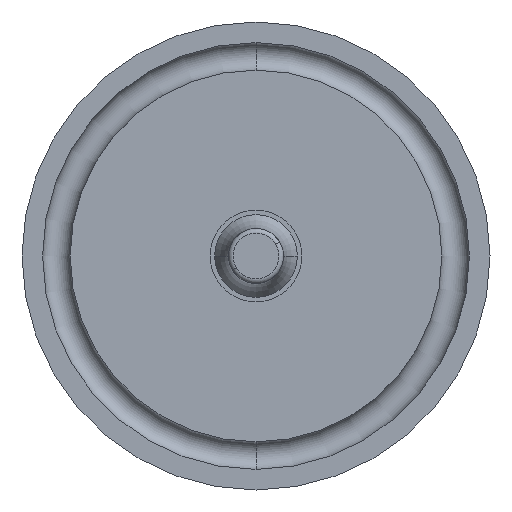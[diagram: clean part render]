
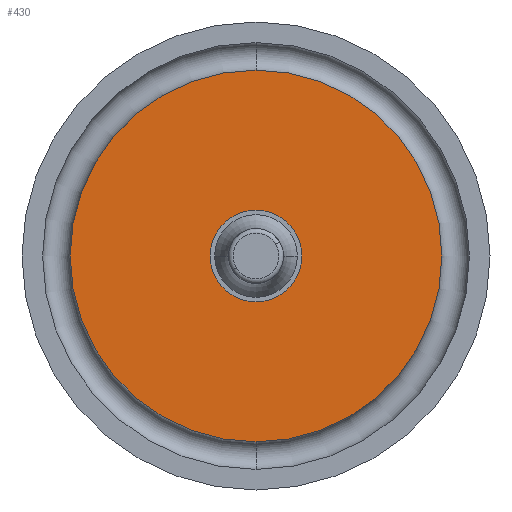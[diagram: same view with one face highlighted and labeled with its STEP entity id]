
A CAD part, front view. The second image highlights one B-rep face of the part: STEP entity #430.
In plain terms, the highlighted planar face has unit normal (0, -1, 0).
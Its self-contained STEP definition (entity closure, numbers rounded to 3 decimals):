
#196 = DIRECTION ( 'NONE',  ( 0., 1., 0. ) ) ;
#299 = CIRCLE ( 'NONE', #2300, 5. ) ;
#355 = CIRCLE ( 'NONE', #2046, 20.25 ) ;
#430 = ADVANCED_FACE ( 'NONE', ( #4752, #5232 ), #1711, .F. ) ;
#489 = CARTESIAN_POINT ( 'NONE',  ( 0., 0., 5. ) ) ;
#551 = DIRECTION ( 'NONE',  ( 0., 1., 0. ) ) ;
#586 = DIRECTION ( 'NONE',  ( 0., 1., 0. ) ) ;
#715 = DIRECTION ( 'NONE',  ( 0., 1., 0. ) ) ;
#744 = ORIENTED_EDGE ( 'NONE', *, *, #3479, .T. ) ;
#887 = AXIS2_PLACEMENT_3D ( 'NONE', #3053, #5051, #2869 ) ;
#987 = VERTEX_POINT ( 'NONE', #4087 ) ;
#1362 = AXIS2_PLACEMENT_3D ( 'NONE', #4450, #551, #4418 ) ;
#1410 = CARTESIAN_POINT ( 'NONE',  ( 0., 0., 0. ) ) ;
#1449 = EDGE_CURVE ( 'NONE', #987, #4096, #355, .T. ) ;
#1492 = CARTESIAN_POINT ( 'NONE',  ( 0., 0., -5. ) ) ;
#1616 = VERTEX_POINT ( 'NONE', #489 ) ;
#1711 = PLANE ( 'NONE',  #887 ) ;
#2046 = AXIS2_PLACEMENT_3D ( 'NONE', #2846, #196, #3211 ) ;
#2077 = CARTESIAN_POINT ( 'NONE',  ( 0., 0., 0. ) ) ;
#2300 = AXIS2_PLACEMENT_3D ( 'NONE', #1410, #586, #4073 ) ;
#2302 = EDGE_CURVE ( 'NONE', #5233, #1616, #5253, .T. ) ;
#2457 = CARTESIAN_POINT ( 'NONE',  ( 0., 0., -20.25 ) ) ;
#2677 = ORIENTED_EDGE ( 'NONE', *, *, #2907, .F. ) ;
#2846 = CARTESIAN_POINT ( 'NONE',  ( 0., 0., 0. ) ) ;
#2869 = DIRECTION ( 'NONE',  ( 0., 0., 1. ) ) ;
#2907 = EDGE_CURVE ( 'NONE', #4096, #987, #3097, .T. ) ;
#3053 = CARTESIAN_POINT ( 'NONE',  ( 5., 0., 0. ) ) ;
#3097 = CIRCLE ( 'NONE', #1362, 20.25 ) ;
#3211 = DIRECTION ( 'NONE',  ( 0., 0., 1. ) ) ;
#3479 = EDGE_CURVE ( 'NONE', #1616, #5233, #299, .T. ) ;
#3709 = AXIS2_PLACEMENT_3D ( 'NONE', #2077, #715, #4253 ) ;
#4073 = DIRECTION ( 'NONE',  ( 0., 0., 1. ) ) ;
#4087 = CARTESIAN_POINT ( 'NONE',  ( 0., 0., 20.25 ) ) ;
#4096 = VERTEX_POINT ( 'NONE', #2457 ) ;
#4230 = ORIENTED_EDGE ( 'NONE', *, *, #1449, .F. ) ;
#4253 = DIRECTION ( 'NONE',  ( 0., 0., 1. ) ) ;
#4418 = DIRECTION ( 'NONE',  ( 0., 0., 1. ) ) ;
#4450 = CARTESIAN_POINT ( 'NONE',  ( 0., 0., 0. ) ) ;
#4752 = FACE_OUTER_BOUND ( 'NONE', #5582, .T. ) ;
#5051 = DIRECTION ( 'NONE',  ( 0., 1., 0. ) ) ;
#5232 = FACE_BOUND ( 'NONE', #5286, .T. ) ;
#5233 = VERTEX_POINT ( 'NONE', #1492 ) ;
#5253 = CIRCLE ( 'NONE', #3709, 5. ) ;
#5286 = EDGE_LOOP ( 'NONE', ( #744, #5613 ) ) ;
#5582 = EDGE_LOOP ( 'NONE', ( #4230, #2677 ) ) ;
#5613 = ORIENTED_EDGE ( 'NONE', *, *, #2302, .T. ) ;
